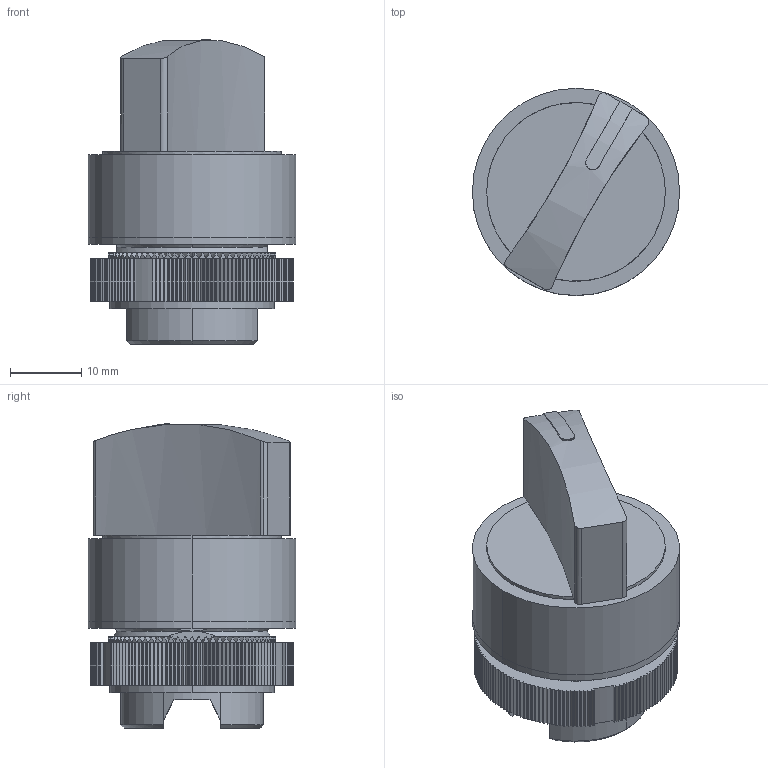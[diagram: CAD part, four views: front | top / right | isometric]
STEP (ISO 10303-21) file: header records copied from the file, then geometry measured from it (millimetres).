
FILE_DESCRIPTION (( 'STEP AP214' ), '1' );
FILE_NAME ('3D 斁麧錪 MTB2-ED2.STEP', '2017-08-29T14:02:29', ( '' ), ( '' ), 'SwSTEP 2.0', 'SolidWorks 2011', '' );
FILE_SCHEMA (( 'AUTOMOTIVE_DESIGN' ));
Length unit declared in the file: millimetre
Products named in the file (4): 3D 斁麧錪 MTB2-ED2; 暑朦鲱 箫腩蝽栩咫铄; Êîëüöî-ãàéêà; MTB2-ED2 Ãîëîâêà ïåðåêëþ÷àòåëÿ
Assembly tree (3 placements, depth 2):
  3D 斁麧錪 MTB2-ED2
    MTB2-ED2 Ãîëîâêà ïåðåêëþ÷àòåëÿ
    暑朦鲱 箫腩蝽栩咫铄
    Êîëüöî-ãàéêà
Bounding box: 29 x 29 x 42.62 mm (x, y, z)
Volume: 16235.4 mm3; surface area: 8925.3 mm2
Topology: 3 solids, 4 shells, 801 faces, 2297 edges, 1513 vertices
Faces by surface type: plane 488, cylinder 190, bspline 74, cone 47, torus 2
Entity records: 35105 total; most frequent: CARTESIAN_POINT 11954, ORIENTED_EDGE 4594, DIRECTION 3606, EDGE_CURVE 2297, VERTEX_POINT 1513, VECTOR 1252, LINE 1252, AXIS2_PLACEMENT_3D 1177
